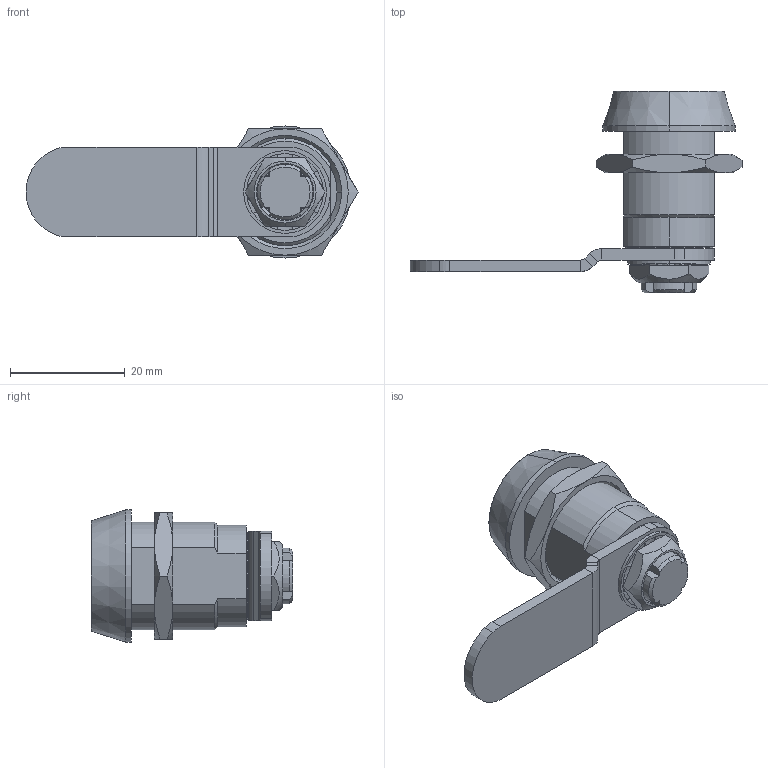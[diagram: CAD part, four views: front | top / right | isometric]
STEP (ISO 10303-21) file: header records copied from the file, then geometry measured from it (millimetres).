
FILE_DESCRIPTION (( 'STEP AP214' ), '1' );
FILE_NAME ('2.Z2106_H22.STEP', '2025-06-30T09:11:39', ( '' ), ( '' ), 'SwSTEP 2.0', 'SolidWorks 2021', '' );
FILE_SCHEMA (( 'AUTOMOTIVE_DESIGN' ));
Length unit declared in the file: millimetre
Products named in the file (8): 2.Z2106.001.02_H22; 2.Z2106.001.01; 2.Z2106.001.06_67984I 84-mattssons; 2.Z2106_H22; 2.Z2106.001.04_A; 2.Z2106.001.03_A; Wk³adka 25001; 2.Z2106.001.05_A
Assembly tree (7 placements, depth 2):
  2.Z2106_H22
    2.Z2106.001.01
    2.Z2106.001.03_A
    2.Z2106.001.04_A
    2.Z2106.001.05_A
    2.Z2106.001.06_67984I 84-mattssons
    Wk³adka 25001
    2.Z2106.001.02_H22
Bounding box: 57.8 x 35.1 x 23 mm (x, y, z)
Volume: 8479.7 mm3; surface area: 9302.1 mm2
Topology: 7 solids, 7 shells, 313 faces, 817 edges, 519 vertices
Faces by surface type: plane 153, cylinder 88, cone 32, bspline 32, torus 6, sphere 2
Entity records: 11694 total; most frequent: CARTESIAN_POINT 2809, ORIENTED_EDGE 1634, DIRECTION 1530, EDGE_CURVE 817, AXIS2_PLACEMENT_3D 538, VERTEX_POINT 519, VECTOR 454, LINE 454
